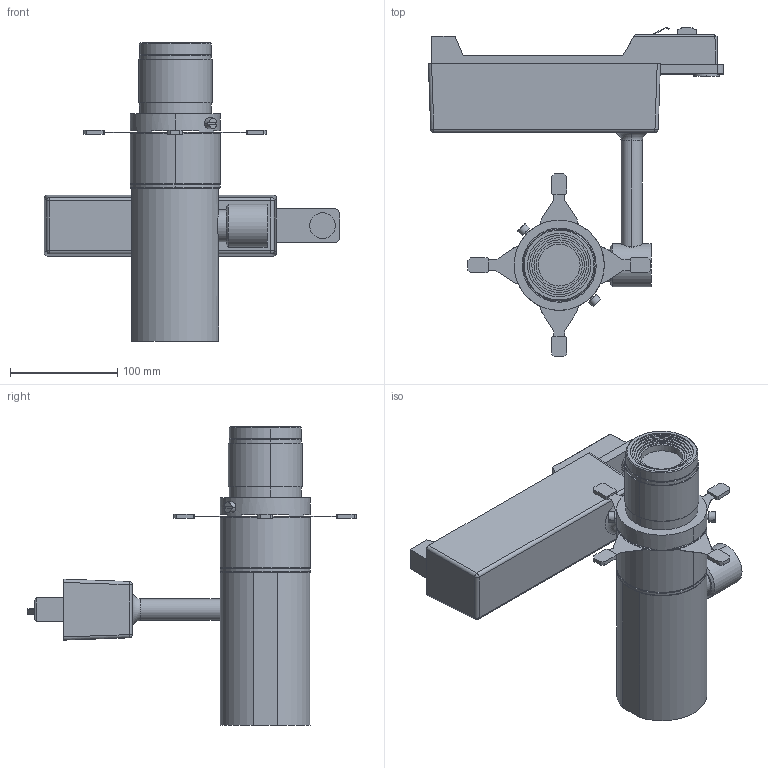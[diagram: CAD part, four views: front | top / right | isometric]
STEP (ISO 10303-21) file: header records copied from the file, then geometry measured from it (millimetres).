
FILE_DESCRIPTION (( 'STEP AP203' ), '1' );
FILE_NAME ('P1L (Track_Top Mount)_Hanging+50D_10-06-2026.STEP', '2026-06-10T07:42:46', ( '' ), ( '' ), 'SwSTEP 2.0', 'SolidWorks 2014', '' );
FILE_SCHEMA (( 'CONFIG_CONTROL_DESIGN' ));
Length unit declared in the file: millimetre
Products named in the file (4): 50D_Fresnel Lens_P1L; P1L (Track_Top Mount)_Hanging+50D_10-06-2026; P1L - Light Body; Top Mount_Yoke+PSU_(Track)
Assembly tree (3 placements, depth 2):
  P1L (Track_Top Mount)_Hanging+50D_10-06-2026
    Top Mount_Yoke+PSU_(Track)
    P1L - Light Body
    50D_Fresnel Lens_P1L
Bounding box: 275.04 x 306.96 x 277.7 mm (x, y, z)
Volume: 2295283.3 mm3; surface area: 198675.7 mm2
Topology: 3 solids, 3 shells, 321 faces, 832 edges, 532 vertices
Faces by surface type: plane 204, cylinder 95, cone 16, sphere 4, torus 2
Entity records: 10370 total; most frequent: CARTESIAN_POINT 1949, DIRECTION 1700, ORIENTED_EDGE 1656, EDGE_CURVE 828, LINE 582, VECTOR 582, AXIS2_PLACEMENT_3D 559, VERTEX_POINT 532
